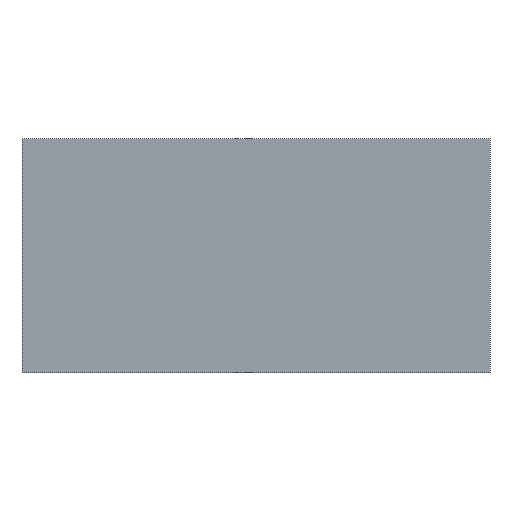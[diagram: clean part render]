
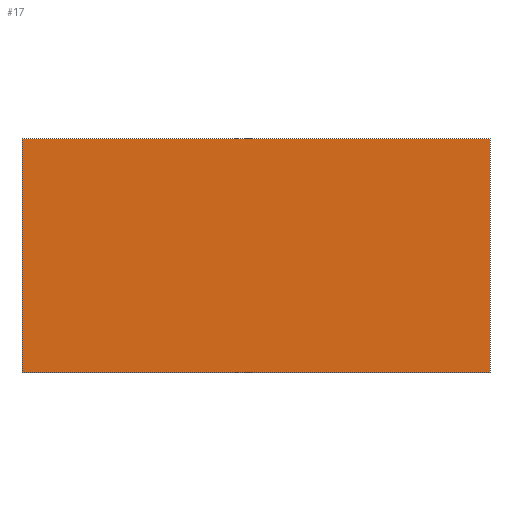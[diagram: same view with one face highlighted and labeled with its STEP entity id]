
A CAD part, left-side view. The second image highlights one B-rep face of the part: STEP entity #17.
In plain terms, the highlighted planar face has unit normal (-1, 0, 0).
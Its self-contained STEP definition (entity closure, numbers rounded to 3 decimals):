
#17 = ADVANCED_FACE('',(#18),#32,.F.);
#18 = FACE_BOUND('',#19,.F.);
#19 = EDGE_LOOP('',(#20,#55,#83,#111));
#20 = ORIENTED_EDGE('',*,*,#21,.F.);
#21 = EDGE_CURVE('',#22,#24,#26,.T.);
#22 = VERTEX_POINT('',#23);
#23 = CARTESIAN_POINT('',(-59.,20.2,-4.2));
#24 = VERTEX_POINT('',#25);
#25 = CARTESIAN_POINT('',(-59.,20.2,9.8));
#26 = SURFACE_CURVE('',#27,(#31,#43),.PCURVE_S1.);
#27 = LINE('',#28,#29);
#28 = CARTESIAN_POINT('',(-59.,20.2,-4.2));
#29 = VECTOR('',#30,1.);
#30 = DIRECTION('',(0.,0.,1.));
#31 = PCURVE('',#32,#37);
#32 = PLANE('',#33);
#33 = AXIS2_PLACEMENT_3D('',#34,#35,#36);
#34 = CARTESIAN_POINT('',(-59.,20.2,-4.2));
#35 = DIRECTION('',(1.,0.,0.));
#36 = DIRECTION('',(0.,0.,1.));
#37 = DEFINITIONAL_REPRESENTATION('',(#38),#42);
#38 = LINE('',#39,#40);
#39 = CARTESIAN_POINT('',(0.,0.));
#40 = VECTOR('',#41,1.);
#41 = DIRECTION('',(1.,0.));
#42 = ( GEOMETRIC_REPRESENTATION_CONTEXT(2) 
PARAMETRIC_REPRESENTATION_CONTEXT() REPRESENTATION_CONTEXT('2D SPACE',''
  ) );
#43 = PCURVE('',#44,#49);
#44 = PLANE('',#45);
#45 = AXIS2_PLACEMENT_3D('',#46,#47,#48);
#46 = CARTESIAN_POINT('',(-59.,20.2,-4.2));
#47 = DIRECTION('',(0.,1.,0.));
#48 = DIRECTION('',(0.,0.,1.));
#49 = DEFINITIONAL_REPRESENTATION('',(#50),#54);
#50 = LINE('',#51,#52);
#51 = CARTESIAN_POINT('',(0.,0.));
#52 = VECTOR('',#53,1.);
#53 = DIRECTION('',(1.,0.));
#54 = ( GEOMETRIC_REPRESENTATION_CONTEXT(2) 
PARAMETRIC_REPRESENTATION_CONTEXT() REPRESENTATION_CONTEXT('2D SPACE',''
  ) );
#55 = ORIENTED_EDGE('',*,*,#56,.T.);
#56 = EDGE_CURVE('',#22,#57,#59,.T.);
#57 = VERTEX_POINT('',#58);
#58 = CARTESIAN_POINT('',(-59.,48.2,-4.2));
#59 = SURFACE_CURVE('',#60,(#64,#71),.PCURVE_S1.);
#60 = LINE('',#61,#62);
#61 = CARTESIAN_POINT('',(-59.,20.2,-4.2));
#62 = VECTOR('',#63,1.);
#63 = DIRECTION('',(0.,1.,0.));
#64 = PCURVE('',#32,#65);
#65 = DEFINITIONAL_REPRESENTATION('',(#66),#70);
#66 = LINE('',#67,#68);
#67 = CARTESIAN_POINT('',(0.,0.));
#68 = VECTOR('',#69,1.);
#69 = DIRECTION('',(0.,-1.));
#70 = ( GEOMETRIC_REPRESENTATION_CONTEXT(2) 
PARAMETRIC_REPRESENTATION_CONTEXT() REPRESENTATION_CONTEXT('2D SPACE',''
  ) );
#71 = PCURVE('',#72,#77);
#72 = PLANE('',#73);
#73 = AXIS2_PLACEMENT_3D('',#74,#75,#76);
#74 = CARTESIAN_POINT('',(-59.,20.2,-4.2));
#75 = DIRECTION('',(0.,0.,1.));
#76 = DIRECTION('',(1.,0.,0.));
#77 = DEFINITIONAL_REPRESENTATION('',(#78),#82);
#78 = LINE('',#79,#80);
#79 = CARTESIAN_POINT('',(0.,0.));
#80 = VECTOR('',#81,1.);
#81 = DIRECTION('',(0.,1.));
#82 = ( GEOMETRIC_REPRESENTATION_CONTEXT(2) 
PARAMETRIC_REPRESENTATION_CONTEXT() REPRESENTATION_CONTEXT('2D SPACE',''
  ) );
#83 = ORIENTED_EDGE('',*,*,#84,.T.);
#84 = EDGE_CURVE('',#57,#85,#87,.T.);
#85 = VERTEX_POINT('',#86);
#86 = CARTESIAN_POINT('',(-59.,48.2,9.8));
#87 = SURFACE_CURVE('',#88,(#92,#99),.PCURVE_S1.);
#88 = LINE('',#89,#90);
#89 = CARTESIAN_POINT('',(-59.,48.2,-4.2));
#90 = VECTOR('',#91,1.);
#91 = DIRECTION('',(0.,0.,1.));
#92 = PCURVE('',#32,#93);
#93 = DEFINITIONAL_REPRESENTATION('',(#94),#98);
#94 = LINE('',#95,#96);
#95 = CARTESIAN_POINT('',(0.,-28.));
#96 = VECTOR('',#97,1.);
#97 = DIRECTION('',(1.,0.));
#98 = ( GEOMETRIC_REPRESENTATION_CONTEXT(2) 
PARAMETRIC_REPRESENTATION_CONTEXT() REPRESENTATION_CONTEXT('2D SPACE',''
  ) );
#99 = PCURVE('',#100,#105);
#100 = PLANE('',#101);
#101 = AXIS2_PLACEMENT_3D('',#102,#103,#104);
#102 = CARTESIAN_POINT('',(-59.,48.2,-4.2));
#103 = DIRECTION('',(0.,1.,0.));
#104 = DIRECTION('',(0.,0.,1.));
#105 = DEFINITIONAL_REPRESENTATION('',(#106),#110);
#106 = LINE('',#107,#108);
#107 = CARTESIAN_POINT('',(0.,0.));
#108 = VECTOR('',#109,1.);
#109 = DIRECTION('',(1.,0.));
#110 = ( GEOMETRIC_REPRESENTATION_CONTEXT(2) 
PARAMETRIC_REPRESENTATION_CONTEXT() REPRESENTATION_CONTEXT('2D SPACE',''
  ) );
#111 = ORIENTED_EDGE('',*,*,#112,.F.);
#112 = EDGE_CURVE('',#24,#85,#113,.T.);
#113 = SURFACE_CURVE('',#114,(#118,#125),.PCURVE_S1.);
#114 = LINE('',#115,#116);
#115 = CARTESIAN_POINT('',(-59.,20.2,9.8));
#116 = VECTOR('',#117,1.);
#117 = DIRECTION('',(0.,1.,0.));
#118 = PCURVE('',#32,#119);
#119 = DEFINITIONAL_REPRESENTATION('',(#120),#124);
#120 = LINE('',#121,#122);
#121 = CARTESIAN_POINT('',(14.,0.));
#122 = VECTOR('',#123,1.);
#123 = DIRECTION('',(0.,-1.));
#124 = ( GEOMETRIC_REPRESENTATION_CONTEXT(2) 
PARAMETRIC_REPRESENTATION_CONTEXT() REPRESENTATION_CONTEXT('2D SPACE',''
  ) );
#125 = PCURVE('',#126,#131);
#126 = PLANE('',#127);
#127 = AXIS2_PLACEMENT_3D('',#128,#129,#130);
#128 = CARTESIAN_POINT('',(-59.,20.2,9.8));
#129 = DIRECTION('',(0.,0.,1.));
#130 = DIRECTION('',(1.,0.,0.));
#131 = DEFINITIONAL_REPRESENTATION('',(#132),#136);
#132 = LINE('',#133,#134);
#133 = CARTESIAN_POINT('',(0.,0.));
#134 = VECTOR('',#135,1.);
#135 = DIRECTION('',(0.,1.));
#136 = ( GEOMETRIC_REPRESENTATION_CONTEXT(2) 
PARAMETRIC_REPRESENTATION_CONTEXT() REPRESENTATION_CONTEXT('2D SPACE',''
  ) );
